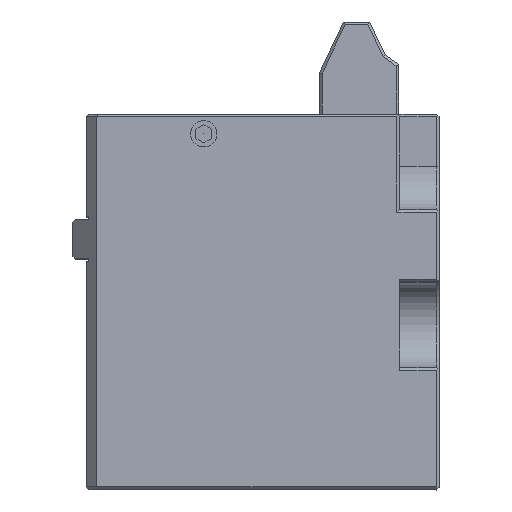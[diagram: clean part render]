
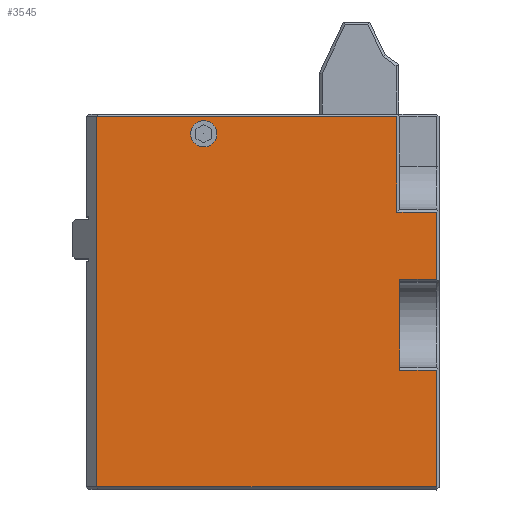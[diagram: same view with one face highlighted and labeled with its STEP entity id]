
A CAD part, top view. The second image highlights one B-rep face of the part: STEP entity #3545.
In plain terms, the highlighted planar face has unit normal (0, 0, 1).
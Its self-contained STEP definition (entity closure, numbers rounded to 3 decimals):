
#27=DIRECTION('',(1.,0.,0.));
#28=VECTOR('',#27,25.8);
#29=CARTESIAN_POINT('',(-12.7,0.2,13.25));
#30=LINE('',#29,#28);
#245=DIRECTION('',(0.,1.,0.));
#246=VECTOR('',#245,8.85);
#247=CARTESIAN_POINT('',(13.1,0.2,13.25));
#248=LINE('',#247,#246);
#648=DIRECTION('',(1.,0.,0.));
#649=VECTOR('',#648,22.8);
#650=CARTESIAN_POINT('',(-12.7,28.3,13.25));
#651=LINE('',#650,#649);
#652=DIRECTION('',(0.,1.,0.));
#653=VECTOR('',#652,28.1);
#654=CARTESIAN_POINT('',(-12.7,0.2,13.25));
#655=LINE('',#654,#653);
#656=CARTESIAN_POINT('',(-4.57,27.,13.25));
#657=DIRECTION('',(0.,0.,1.));
#658=DIRECTION('',(1.,0.,0.));
#659=AXIS2_PLACEMENT_3D('',#656,#657,#658);
#661=CARTESIAN_POINT('',(-4.57,27.,13.25));
#662=DIRECTION('',(0.,0.,1.));
#663=DIRECTION('',(-1.,0.,0.));
#664=AXIS2_PLACEMENT_3D('',#661,#662,#663);
#670=DIRECTION('',(0.,1.,0.));
#671=VECTOR('',#670,7.25);
#672=CARTESIAN_POINT('',(10.1,21.05,13.25));
#673=LINE('',#672,#671);
#719=DIRECTION('',(-1.,0.,0.));
#720=VECTOR('',#719,3.);
#721=CARTESIAN_POINT('',(13.1,21.05,13.25));
#722=LINE('',#721,#720);
#978=DIRECTION('',(0.,1.,0.));
#979=VECTOR('',#978,5.1);
#980=CARTESIAN_POINT('',(13.1,15.95,13.25));
#981=LINE('',#980,#979);
#1036=DIRECTION('',(-1.,0.,0.));
#1037=VECTOR('',#1036,2.8);
#1038=CARTESIAN_POINT('',(13.1,9.05,13.25));
#1039=LINE('',#1038,#1037);
#1044=DIRECTION('',(0.,1.,0.));
#1045=VECTOR('',#1044,6.9);
#1046=CARTESIAN_POINT('',(10.3,9.05,13.25));
#1047=LINE('',#1046,#1045);
#1072=DIRECTION('',(1.,0.,0.));
#1073=VECTOR('',#1072,2.8);
#1074=CARTESIAN_POINT('',(10.3,15.95,13.25));
#1075=LINE('',#1074,#1073);
#2060=CARTESIAN_POINT('',(-12.7,0.2,13.25));
#2061=VERTEX_POINT('',#2060);
#2062=CARTESIAN_POINT('',(13.1,0.2,13.25));
#2063=VERTEX_POINT('',#2062);
#2186=CARTESIAN_POINT('',(13.1,9.05,13.25));
#2187=VERTEX_POINT('',#2186);
#2286=CARTESIAN_POINT('',(-12.7,28.3,13.25));
#2288=VERTEX_POINT('',#2286);
#2296=CARTESIAN_POINT('',(10.1,28.3,13.25));
#2297=VERTEX_POINT('',#2296);
#2300=CARTESIAN_POINT('',(10.1,21.05,13.25));
#2301=VERTEX_POINT('',#2300);
#2302=CARTESIAN_POINT('',(13.1,21.05,13.25));
#2303=VERTEX_POINT('',#2302);
#2304=CARTESIAN_POINT('',(13.1,15.95,13.25));
#2305=VERTEX_POINT('',#2304);
#2306=CARTESIAN_POINT('',(10.3,15.95,13.25));
#2307=VERTEX_POINT('',#2306);
#2308=CARTESIAN_POINT('',(10.3,9.05,13.25));
#2309=VERTEX_POINT('',#2308);
#2310=CARTESIAN_POINT('',(-3.57,27.,13.25));
#2311=CARTESIAN_POINT('',(-5.57,27.,13.25));
#2312=VERTEX_POINT('',#2310);
#2313=VERTEX_POINT('',#2311);
#3516=CARTESIAN_POINT('',(11.432,28.5,13.25));
#3517=DIRECTION('',(0.,0.,-1.));
#3518=DIRECTION('',(-1.,0.,0.));
#3519=AXIS2_PLACEMENT_3D('',#3516,#3517,#3518);
#3520=PLANE('',#3519);
#3521=ORIENTED_EDGE('',*,*,#3505,.T.);
#3523=ORIENTED_EDGE('',*,*,#3522,.F.);
#3525=ORIENTED_EDGE('',*,*,#3524,.F.);
#3527=ORIENTED_EDGE('',*,*,#3526,.F.);
#3529=ORIENTED_EDGE('',*,*,#3528,.F.);
#3531=ORIENTED_EDGE('',*,*,#3530,.F.);
#3533=ORIENTED_EDGE('',*,*,#3532,.F.);
#3534=ORIENTED_EDGE('',*,*,#2998,.F.);
#3535=ORIENTED_EDGE('',*,*,#2688,.F.);
#3536=ORIENTED_EDGE('',*,*,#3465,.T.);
#3537=EDGE_LOOP('',(#3521,#3523,#3525,#3527,#3529,#3531,#3533,#3534,#3535,
#3536));
#3538=FACE_OUTER_BOUND('',#3537,.F.);
#3540=ORIENTED_EDGE('',*,*,#3539,.T.);
#3542=ORIENTED_EDGE('',*,*,#3541,.T.);
#3543=EDGE_LOOP('',(#3540,#3542));
#3544=FACE_BOUND('',#3543,.F.);
#3545=ADVANCED_FACE('',(#3538,#3544),#3520,.F.);
#660=CIRCLE('',#659,1.);
#665=CIRCLE('',#664,1.);
#2688=EDGE_CURVE('',#2061,#2063,#30,.T.);
#2998=EDGE_CURVE('',#2063,#2187,#248,.T.);
#3465=EDGE_CURVE('',#2061,#2288,#655,.T.);
#3505=EDGE_CURVE('',#2288,#2297,#651,.T.);
#3522=EDGE_CURVE('',#2301,#2297,#673,.T.);
#3524=EDGE_CURVE('',#2303,#2301,#722,.T.);
#3526=EDGE_CURVE('',#2305,#2303,#981,.T.);
#3528=EDGE_CURVE('',#2307,#2305,#1075,.T.);
#3530=EDGE_CURVE('',#2309,#2307,#1047,.T.);
#3532=EDGE_CURVE('',#2187,#2309,#1039,.T.);
#3539=EDGE_CURVE('',#2312,#2313,#660,.T.);
#3541=EDGE_CURVE('',#2313,#2312,#665,.T.);
